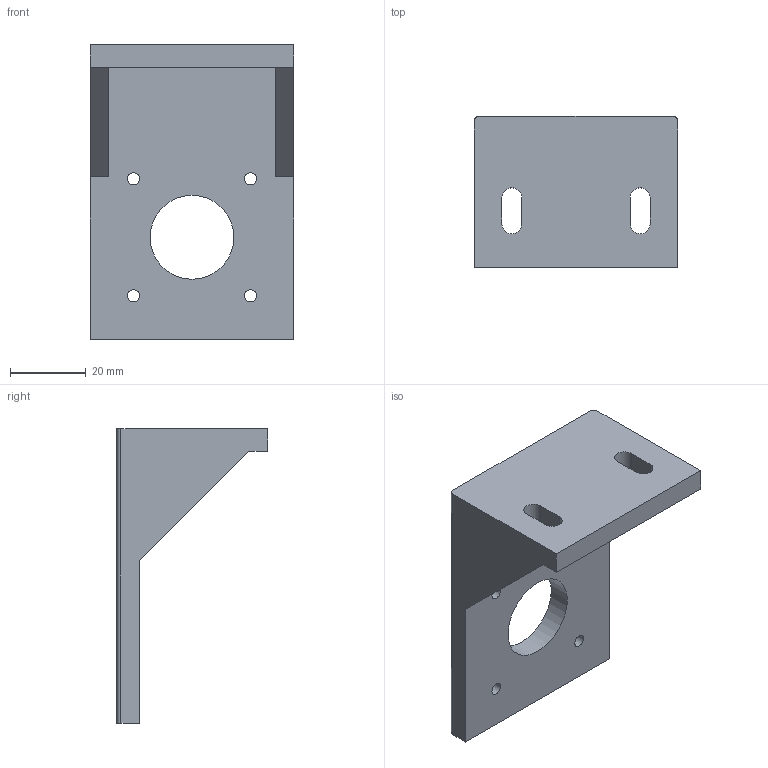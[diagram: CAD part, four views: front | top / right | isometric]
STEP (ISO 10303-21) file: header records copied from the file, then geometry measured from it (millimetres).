
FILE_DESCRIPTION(('Open CASCADE Model'),'2;1');
FILE_NAME('Open CASCADE Shape Model','2026-09-04T19:26:42',('Author'),( 'Open CASCADE'),'Open CASCADE STEP processor 7.9','Open CASCADE 7.9' ,'Unknown');
FILE_SCHEMA(('AUTOMOTIVE_DESIGN { 1 0 10303 214 1 1 1 1 }'));
Length unit declared in the file: millimetre
Products named in the file (1): COMPOUND
Bounding box: 54 x 40 x 78 mm (x, y, z)
Volume: 37237.7 mm3; surface area: 15473.3 mm2
Topology: 1 solids, 1 shells, 27 faces, 75 edges, 50 vertices
Faces by surface type: plane 16, cylinder 11
Full cylindrical faces by diameter (mm): 3.2 x4, 22.2 x1
Entity records: 1920 total; most frequent: CARTESIAN_POINT 409, DIRECTION 267, LINE 159, VECTOR 159, ORIENTED_EDGE 150, PCURVE 150, DEFINITIONAL_REPRESENTATION 150, EDGE_CURVE 75
